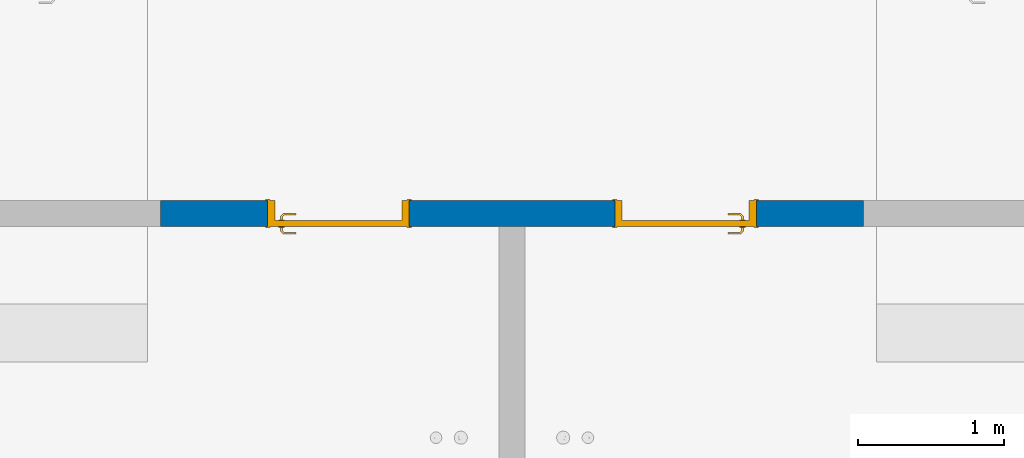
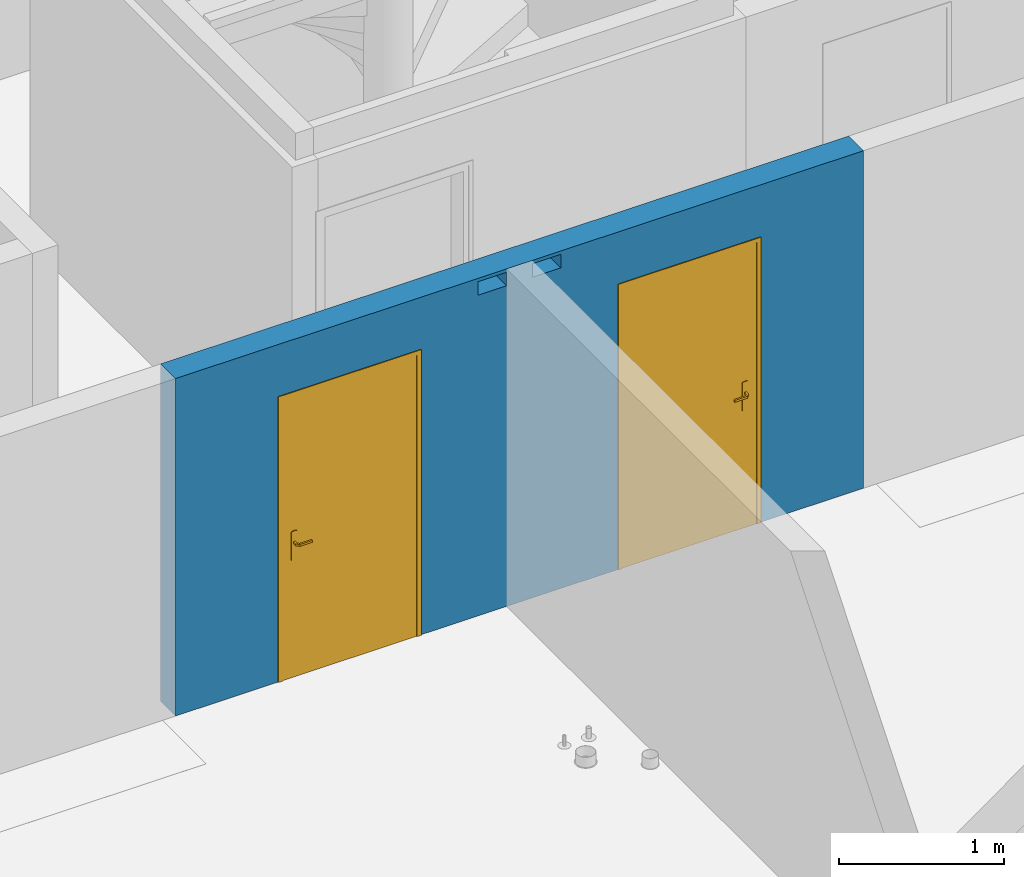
# One storey, part 10 of 34: 2 doors, 1 wall, 4 openings.
"""IFC2X3 building model written with IfcOpenShell, lengths in centimetres."""

from ifc_helpers import new_model, entity, si_unit, converted_unit, derived_unit, direction, frame, frame_2d, origin, place, context, subcontext, project, spatial, rectangle, extrude, faceted_brep, source, transform, mapped, material, material_list, layer, layer_set, layer_usage, type_object, type_shapes, element, fill, save


model = new_model("IFC2X3")

# Units and contexts
model_context = context("Model", 3, precision=0.001, world=origin(), true_north=direction((6.12303176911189e-17, 1.0)))
body_context = subcontext(model_context, "Body", "Model", "MODEL_VIEW")
ifc_project = project(units=[si_unit("LENGTHUNIT", "METRE", prefix="CENTI"), si_unit("AREAUNIT", "SQUARE_METRE"), si_unit("VOLUMEUNIT", "CUBIC_METRE"), converted_unit("PLANEANGLEUNIT", "DEGREE", entity("IfcRatioMeasure", 0.0174532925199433), si_unit("PLANEANGLEUNIT", "RADIAN"), dimensions=[0, 0, 0, 0, 0, 0, 0]), si_unit("MASSUNIT", "GRAM", prefix="KILO"), derived_unit("MASSDENSITYUNIT", [(si_unit("MASSUNIT", "GRAM", prefix="KILO"), 1), (si_unit("LENGTHUNIT", "METRE"), -3)]), si_unit("TIMEUNIT", "SECOND"), si_unit("FREQUENCYUNIT", "HERTZ"), si_unit("THERMODYNAMICTEMPERATUREUNIT", "DEGREE_CELSIUS"), derived_unit("THERMALTRANSMITTANCEUNIT", [(si_unit("MASSUNIT", "GRAM", prefix="KILO"), 1), (si_unit("THERMODYNAMICTEMPERATUREUNIT", "KELVIN"), -1), (si_unit("TIMEUNIT", "SECOND"), -3)]), derived_unit("VOLUMETRICFLOWRATEUNIT", [(si_unit("LENGTHUNIT", "METRE"), 3), (si_unit("TIMEUNIT", "SECOND"), -1)]), si_unit("ELECTRICCURRENTUNIT", "AMPERE"), si_unit("ELECTRICVOLTAGEUNIT", "VOLT"), si_unit("POWERUNIT", "WATT"), si_unit("FORCEUNIT", "NEWTON"), si_unit("ILLUMINANCEUNIT", "LUX"), si_unit("LUMINOUSFLUXUNIT", "LUMEN"), si_unit("LUMINOUSINTENSITYUNIT", "CANDELA"), derived_unit("USERDEFINED", [(si_unit("MASSUNIT", "GRAM", prefix="KILO"), -1), (si_unit("LENGTHUNIT", "METRE"), -2), (si_unit("TIMEUNIT", "SECOND"), 3), (si_unit("LUMINOUSFLUXUNIT", "LUMEN"), 1)]), derived_unit("LINEARVELOCITYUNIT", [(si_unit("LENGTHUNIT", "METRE"), 1), (si_unit("TIMEUNIT", "SECOND"), -1)]), si_unit("PRESSUREUNIT", "PASCAL"), derived_unit("USERDEFINED", [(si_unit("LENGTHUNIT", "METRE"), -2), (si_unit("MASSUNIT", "GRAM", prefix="KILO"), 1), (si_unit("TIMEUNIT", "SECOND"), -2)])], contexts=[model_context])

# Site, building, storey
site_placement = place(None, origin())
site = spatial("IfcSite", under=ifc_project, at=site_placement, Name="Default", CompositionType="ELEMENT")
building_placement = place(site_placement, origin())
building = spatial("IfcBuilding", under=site, at=building_placement, Name="CAGE 03", CompositionType="ELEMENT")
storey_placement = place(building_placement, frame((0.0, 0.0, 340.0)))
storey = spatial("IfcBuildingStorey", under=building, at=storey_placement, Name="R+1", CompositionType="ELEMENT", Elevation=340.0)

# Wall, openings, doors
ifc_material_1 = material(Name="Béton, C25/30")
ifc_layer = layer(ifc_material_1, 18.0)
ifc_layer_set = layer_set([ifc_layer], Name="Mur de base:Voile BA 18")
ifc_layer_usage = layer_usage(ifc_layer_set, "AXIS2", "NEGATIVE", 9.0)
wall_type = type_object("IfcWallType", Name="Mur de base:Voile BA 18", PredefinedType="STANDARD", material=ifc_layer_set)
wall_placement = place(storey_placement, frame((6840.36582014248, 4483.6606660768, 0.0)))
wall = element("IfcWallStandardCase", 1, at=wall_placement, inside=storey, type_object=wall_type, material=ifc_layer_usage, Name="Mur de base:Voile BA 18", ObjectType="Mur de base:Voile BA 18", context=body_context, shape_type="SweptSolid", body=[
    extrude(rectangle(XDim=482.000000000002, YDim=17.9999999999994, at=frame_2d((241.000000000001, 3.5527136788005e-13), x_axis=(-1.0, 0.0))), origin(), (0.0, 0.0, 1.0), 250.0),
])
opening_1_placement = place(wall_placement, origin())
element("IfcOpeningElement", 2, at=opening_1_placement, cuts=wall, Name="Mur de base:Voile BA 18", ObjectType="Opening", context=body_context, shape_type="SweptSolid", body=[
    extrude(rectangle(XDim=10.0, YDim=19.9999999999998, at=frame_2d((4.33431068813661e-13, 5.41788836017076e-14), x_axis=(0.0, 1.0))), frame((222.0, -9.0, 242.5), z_axis=(0.0, 1.0, 0.0), x_axis=(1.0, 0.0, 0.0)), (0.0, 0.0, 1.0), 17.9999999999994),
])
opening_2_placement = place(wall_placement, origin())
element("IfcOpeningElement", 3, at=opening_2_placement, cuts=wall, Name="Mur de base:Voile BA 18", ObjectType="Opening", context=body_context, shape_type="SweptSolid", body=[
    extrude(rectangle(XDim=10.0, YDim=19.9999999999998, at=frame_2d((4.33431068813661e-13, 5.41788836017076e-14), x_axis=(0.0, 1.0))), frame((260.0, -9.0, 242.5), z_axis=(0.0, 1.0, 0.0), x_axis=(1.0, 0.0, 0.0)), (0.0, 0.0, 1.0), 17.9999999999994),
])
opening_3_placement = place(wall_placement, frame((170.499999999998, 9.0, 0.0)))
opening_3 = element("IfcOpeningElement", 4, at=opening_3_placement, cuts=wall, Name="Int. Simple:HB93:1", ObjectType="Opening", context=body_context, shape_type="SweptSolid", body=[
    extrude(rectangle(XDim=210.000000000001, YDim=96.9999999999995, at=frame_2d((105.000000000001, 48.4999999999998), x_axis=(1.0, 0.0))), frame((0.0, 0.0, 0.0), z_axis=(0.0, -1.0, 0.0), x_axis=(0.0, 0.0, 1.0)), (0.0, 0.0, 1.0), 18.0),
])
opening_4_placement = place(wall_placement, frame((408.500000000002, 9.0, 0.0)))
opening_4 = element("IfcOpeningElement", 5, at=opening_4_placement, cuts=wall, Name="Int. Simple:HB93:1", ObjectType="Opening", context=body_context, shape_type="SweptSolid", body=[
    extrude(rectangle(XDim=210.000000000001, YDim=96.9999999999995, at=frame_2d((105.000000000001, 48.4999999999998), x_axis=(1.0, 0.0))), frame((0.0, 0.0, 0.0), z_axis=(0.0, -1.0, 0.0), x_axis=(0.0, 0.0, 1.0)), (0.0, 0.0, 1.0), 18.0),
])
ifc_material_2 = material(Name="Finition Peinture - Blanc satiné")
ifc_material_3 = material(Name="Bois - Panneau de porte")
ifc_material_4 = material(Name="Bois - Cadre de porte")
ifc_material_list_1 = material_list([ifc_material_2, ifc_material_3, ifc_material_4])
ifc_material_list_2 = material_list([ifc_material_2, ifc_material_3, ifc_material_4])
door_style_1 = type_object("IfcDoorStyle", Name="HB93", ConstructionType="NOTDEFINED", OperationType="SINGLE_SWING_RIGHT", ParameterTakesPrecedence=False, Sizeable=False, material=ifc_material_list_2)
shared_shape_1 = source(origin(), body_context, "Body", "Brep", [
    faceted_brep([(96.5000000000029, -0.500000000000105, 87.0), (96.5000000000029, -0.500000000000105, 108.0), (95.535276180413, -0.500000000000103, 108.399601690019), (94.5000000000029, -0.500000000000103, 108.535898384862), (93.4647238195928, -0.500000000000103, 108.399601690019), (92.5000000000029, -0.500000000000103, 108.0), (92.5000000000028, -0.500000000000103, 87.0), (93.4647238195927, -0.500000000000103, 86.6003983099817), (94.5000000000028, -0.500000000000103, 86.464101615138), (95.5352761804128, -0.500000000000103, 86.6003983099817), (96.5000000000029, 0.0, 108.0), (96.5000000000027, 0.0, 87.0), (95.5352761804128, 0.0, 86.6003983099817), (94.5000000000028, 0.0, 86.464101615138), (93.4647238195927, 0.0, 86.6003983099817), (92.5000000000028, 0.0, 87.0), (92.5000000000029, 0.0, 108.0), (93.4647238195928, 0.0, 108.399601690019), (94.5000000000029, 0.0, 108.535898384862), (95.535276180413, 0.0, 108.399601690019)], [[[0, 1, 2, 3, 4, 5, 6, 7, 8, 9]], [[10, 11, 12, 13, 14, 15, 16, 17, 18, 19]], [[9, 12, 11, 0]], [[8, 13, 12, 9]], [[7, 14, 13, 8]], [[7, 6, 15, 14]], [[15, 6, 5, 16]], [[4, 17, 16, 5]], [[3, 18, 17, 4]], [[2, 19, 18, 3]], [[2, 1, 10, 19]], [[11, 10, 1, 0]]]),
    faceted_brep([(96.5000000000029, 4.0, 87.0), (96.5000000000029, 4.0, 108.0), (95.535276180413, 4.0, 108.399601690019), (94.5000000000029, 4.0, 108.535898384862), (93.4647238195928, 4.0, 108.399601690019), (92.500000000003, 4.0, 108.0), (92.5000000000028, 4.0, 87.0), (93.4647238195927, 4.0, 86.6003983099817), (94.5000000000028, 4.0, 86.464101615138), (95.5352761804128, 4.0, 86.6003983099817), (94.5000000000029, 4.49999999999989, 108.535898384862), (95.535276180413, 4.49999999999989, 108.399601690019), (96.5000000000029, 4.49999999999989, 108.0), (96.5000000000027, 4.49999999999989, 87.0), (95.5352761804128, 4.49999999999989, 86.6003983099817), (94.5000000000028, 4.49999999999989, 86.464101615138), (93.4647238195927, 4.49999999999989, 86.6003983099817), (92.5000000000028, 4.4999999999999, 87.0), (92.5000000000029, 4.4999999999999, 108.0), (93.4647238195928, 4.49999999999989, 108.399601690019)], [[[0, 1, 2, 3, 4, 5, 6, 7, 8, 9]], [[10, 11, 12, 13, 14, 15, 16, 17, 18, 19]], [[4, 19, 18, 5]], [[3, 10, 19, 4]], [[2, 11, 10, 3]], [[2, 1, 12, 11]], [[13, 12, 1, 0]], [[9, 14, 13, 0]], [[8, 15, 14, 9]], [[7, 16, 15, 8]], [[7, 6, 17, 16]], [[17, 6, 5, 18]]]),
    faceted_brep([(94.2974701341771, -0.500000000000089, 100.778044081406), (94.7025298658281, -0.500000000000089, 100.778044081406), (95.100000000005, -0.500000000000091, 100.699999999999), (95.100000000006, -0.500000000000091, 99.2999999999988), (94.7025298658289, -0.500000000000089, 99.221955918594), (94.297470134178, -0.500000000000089, 99.2219559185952), (93.9000000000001, -0.500000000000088, 99.3000000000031), (93.9000000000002, -0.500000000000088, 100.7), (94.7025298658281, -3.10045754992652, 100.778044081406), (95.1000000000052, -3.26509507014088, 100.7), (94.2974701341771, -2.93267631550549, 100.778044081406), (92.9298602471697, -4.30028620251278, 100.778044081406), (93.0976414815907, -4.70534593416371, 100.778044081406), (93.9000000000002, -2.76803879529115, 100.7), (93.9000000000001, -2.76803879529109, 99.3000000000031), (94.297470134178, -2.93267631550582, 99.2219559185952), (94.7025298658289, -3.10045754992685, 99.221955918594), (93.0976414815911, -4.70534593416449, 99.221955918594), (92.9298602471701, -4.30028620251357, 99.2219559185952), (95.100000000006, -3.26509507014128, 99.2999999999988), (93.2622790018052, -5.1028160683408, 100.7), (92.7652227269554, -3.90281606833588, 100.7), (92.7652227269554, -3.90281606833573, 99.3000000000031), (93.2622790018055, -5.10281606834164, 99.2999999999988), (84.4981359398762, -5.10281606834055, 100.7), (84.4981359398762, -4.70534593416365, 100.778044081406), (84.4981359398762, -4.30028620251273, 100.778044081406), (84.4981359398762, -3.90281606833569, 100.699999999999), (84.4981359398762, -3.90281606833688, 99.3000000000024), (84.4981359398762, -4.30028620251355, 99.2219559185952), (84.4981359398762, -4.70534593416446, 99.221955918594), (84.4981359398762, -5.10281606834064, 99.2999999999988), (88.7139980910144, -4.5028160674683, 100.78786867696), (89.2692302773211, -5.1028160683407, 100.7), (88.6316793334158, -3.90281606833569, 100.7), (88.631679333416, -3.90281606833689, 99.3000000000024), (88.7139981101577, -4.50281607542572, 99.2121313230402), (89.2692310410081, -5.10281606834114, 99.2999999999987)], [[[0, 1, 2, 3, 4, 5, 6, 7]], [[2, 1, 8, 9]], [[1, 0, 10, 11, 12, 8]], [[0, 7, 13, 10]], [[14, 13, 7, 6]], [[5, 15, 14, 6]], [[5, 4, 16, 17, 18, 15]], [[3, 19, 16, 4]], [[9, 19, 3, 2]], [[9, 8, 12, 20]], [[10, 13, 21, 11]], [[22, 21, 13, 14]], [[14, 15, 18, 22]], [[16, 19, 23, 17]], [[20, 23, 19, 9]], [[24, 25, 26, 27, 28, 29, 30, 31]], [[32, 25, 33]], [[33, 25, 24]], [[33, 20, 12]], [[11, 34, 32]], [[34, 11, 21]], [[27, 26, 34]], [[32, 26, 25]], [[32, 34, 26]], [[32, 33, 12]], [[11, 32, 12]], [[21, 22, 35, 28, 27, 34]], [[36, 29, 35]], [[30, 36, 37]], [[18, 35, 22]], [[29, 28, 35]], [[30, 37, 31]], [[37, 17, 23]], [[36, 17, 37]], [[36, 18, 17]], [[36, 35, 18]], [[29, 36, 30]], [[23, 20, 33, 24, 31, 37]]]),
    faceted_brep([(94.2974701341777, 4.49999999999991, 99.2219559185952), (94.7025298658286, 4.49999999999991, 99.221955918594), (95.1000000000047, 4.49999999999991, 99.2999999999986), (95.1000000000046, 4.49999999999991, 100.7), (94.7025298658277, 4.49999999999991, 100.778044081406), (94.2974701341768, 4.49999999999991, 100.778044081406), (93.8999999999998, 4.49999999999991, 100.7), (93.900000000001, 4.49999999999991, 99.3000000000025), (93.8999999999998, 6.7485204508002, 100.7), (93.8999999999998, 6.74852045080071, 99.3000000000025), (94.2974701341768, 6.91315797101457, 100.778044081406), (94.7025298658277, 7.0809392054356, 100.778044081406), (93.0838906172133, 8.69957845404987, 100.778044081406), (92.9161093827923, 8.29451872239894, 100.778044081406), (95.1000000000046, 7.24557672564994, 100.7), (95.1000000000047, 7.24557672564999, 99.2999999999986), (94.7025298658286, 7.08093920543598, 99.221955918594), (94.2974701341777, 6.91315797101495, 99.2219559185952), (92.9161093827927, 8.29451872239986, 99.2219559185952), (93.0838906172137, 8.69957845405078, 99.221955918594), (92.751471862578, 7.89704858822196, 100.7), (92.7514718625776, 7.89704858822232, 99.3000000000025), (93.2485281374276, 9.09704858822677, 100.7), (93.2485281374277, 9.09704858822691, 99.2999999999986), (84.4954216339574, 8.29451872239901, 100.778044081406), (84.4954216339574, 8.69957845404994, 100.778044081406), (84.4954216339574, 9.09704858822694, 100.7), (84.4954216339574, 9.09704858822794, 99.2999999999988), (84.4954216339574, 8.6995784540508, 99.221955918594), (84.4954216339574, 8.29451872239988, 99.2219559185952), (84.4954216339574, 7.89704858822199, 99.3000000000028), (84.4954216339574, 7.89704858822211, 100.7), (88.6234467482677, 7.89704858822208, 100.7), (88.6234479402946, 7.89704858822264, 99.3000000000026), (88.7057655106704, 8.49704858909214, 100.78786867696), (89.255479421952, 9.09704858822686, 100.7), (89.2554795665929, 9.09704858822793, 99.2999999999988), (88.7057654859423, 8.49704858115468, 99.2121313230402)], [[[0, 1, 2, 3, 4, 5, 6, 7]], [[8, 9, 7, 6]], [[5, 10, 8, 6]], [[5, 4, 11, 12, 13, 10]], [[3, 14, 11, 4]], [[14, 3, 2, 15]], [[2, 1, 16, 15]], [[1, 0, 17, 18, 19, 16]], [[0, 7, 9, 17]], [[20, 21, 9, 8]], [[8, 10, 13, 20]], [[14, 22, 12, 11]], [[23, 22, 14, 15]], [[15, 16, 19, 23]], [[17, 9, 21, 18]], [[24, 25, 26, 27, 28, 29, 30, 31]], [[21, 20, 32, 31, 30, 33]], [[34, 24, 32]], [[25, 34, 35]], [[13, 32, 20]], [[24, 31, 32]], [[25, 35, 26]], [[35, 12, 22]], [[34, 12, 35]], [[34, 13, 12]], [[34, 32, 13]], [[24, 34, 25]], [[22, 23, 36, 27, 26, 35]], [[37, 28, 36]], [[36, 28, 27]], [[36, 23, 19]], [[18, 33, 37]], [[33, 18, 21]], [[30, 29, 33]], [[37, 29, 28]], [[37, 33, 29]], [[37, 36, 19]], [[18, 37, 19]]]),
    faceted_brep([(100.500000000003, 4.0, 206.5), (100.500000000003, 4.0, 0.0), (10.5000000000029, 4.0, 0.0), (10.5000000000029, 4.0, 206.5), (100.500000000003, 0.0, 206.5), (10.5000000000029, 0.0, 206.5), (10.5000000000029, 0.0, 0.0), (100.500000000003, 0.0, 0.0)], [[[0, 1, 2, 3]], [[4, 5, 6, 7]], [[3, 5, 4, 0]], [[2, 6, 5, 3]], [[1, 7, 6, 2]], [[0, 4, 7, 1]]]),
    faceted_brep([(104.0, 0.0, 0.0), (100.500000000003, 0.0, 0.0), (100.500000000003, 4.0, 0.0), (99.0, 4.0, 0.0), (99.0, 18.0, 0.0), (104.0, 18.0, 0.0), (104.0, 18.0, 210.0), (104.0, 0.0, 210.0), (99.0, 18.0, 205.0), (12.0, 18.0, 205.0), (12.0, 18.0, 0.0), (7.0, 18.0, 0.0), (7.0, 18.0, 210.0), (99.0, 4.0, 205.0), (100.500000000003, 4.0, 206.5), (10.5000000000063, 4.0, 206.5), (10.5000000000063, 4.0, 0.0), (12.0, 4.0, 0.0), (12.0, 4.0, 205.0), (100.500000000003, 0.0, 206.5), (7.0, 0.0, 210.0), (7.0, 0.0, 0.0), (10.5000000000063, 0.0, 0.0), (10.5000000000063, 0.0, 206.5)], [[[0, 1, 2, 3, 4, 5]], [[5, 6, 7, 0]], [[4, 8, 9, 10, 11, 12, 6, 5]], [[3, 13, 8, 4]], [[2, 14, 15, 16, 17, 18, 13, 3]], [[1, 19, 14, 2]], [[0, 7, 20, 21, 22, 23, 19, 1]], [[12, 11, 21, 20]], [[21, 11, 10, 17, 16, 22]], [[18, 17, 10, 9]], [[23, 22, 16, 15]], [[6, 12, 20, 7]], [[13, 18, 9, 8]], [[19, 23, 15, 14]]]),
    faceted_brep([(102.500000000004, 18.0, 0.0), (102.500000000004, 18.5000000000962, 0.0), (105.500000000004, 18.5000000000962, 0.0), (105.500000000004, 18.0, 0.0), (105.500000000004, 18.0, 211.500000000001), (5.50000000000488, 18.0, 211.500000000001), (5.50000000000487, 18.0, 0.0), (8.50000000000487, 18.0, 0.0), (8.50000000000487, 18.0, 208.500000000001), (102.500000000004, 18.0, 208.500000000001), (105.500000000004, 18.5000000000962, 211.500000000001), (102.500000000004, 18.5000000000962, 208.500000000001), (8.50000000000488, 18.5000000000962, 208.500000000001), (8.50000000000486, 18.5000000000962, 0.0), (5.50000000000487, 18.5000000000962, 0.0), (5.50000000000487, 18.5000000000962, 211.500000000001)], [[[0, 1, 2, 3]], [[3, 4, 5, 6, 7, 8, 9, 0]], [[2, 10, 4, 3]], [[1, 11, 12, 13, 14, 15, 10, 2]], [[0, 9, 11, 1]], [[7, 6, 14, 13]], [[8, 7, 13, 12]], [[15, 14, 6, 5]], [[10, 15, 5, 4]], [[9, 8, 12, 11]]]),
    faceted_brep([(105.500000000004, -0.5, 0.0), (105.500000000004, -0.5, 211.500000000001), (5.50000000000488, -0.5, 211.500000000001), (5.50000000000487, -0.5, 0.0), (8.50000000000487, -0.5, 0.0), (8.50000000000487, -0.5, 208.500000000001), (102.500000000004, -0.5, 208.500000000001), (102.500000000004, -0.5, 0.0), (105.500000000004, 0.0, 0.0), (105.500000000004, 0.0, 211.500000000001), (102.500000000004, 0.0, 0.0), (102.500000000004, 0.0, 208.500000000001), (8.50000000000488, 0.0, 208.500000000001), (8.50000000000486, 0.0, 0.0), (5.50000000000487, 0.0, 0.0), (5.50000000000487, 0.0, 211.500000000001)], [[[0, 1, 2, 3, 4, 5, 6, 7]], [[8, 9, 1, 0]], [[10, 11, 12, 13, 14, 15, 9, 8]], [[7, 6, 11, 10]], [[5, 4, 13, 12]], [[15, 14, 3, 2]], [[9, 15, 2, 1]], [[6, 5, 12, 11]], [[4, 3, 14, 13]], [[7, 10, 8, 0]]]),
])
type_shapes(door_style_1, [shared_shape_1])
door_1_placement = place(opening_4_placement, frame((-104.0, -18.0, 0.0)))
door_1 = element("IfcDoor", 6, at=door_1_placement, inside=storey, type_object=door_style_1, material=ifc_material_list_1, Name="Int. Simple:HB93", ObjectType="HB93", OverallHeight=210.000000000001, OverallWidth=96.9999999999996, context=body_context, shape_type="MappedRepresentation", body=[
    mapped(shared_shape_1, transform((0.0, 0.0, 0.0), scale=1.0)),
])
fill(opening_4, door_1)
ifc_material_list_3 = material_list([ifc_material_2, ifc_material_3, ifc_material_4])
ifc_material_list_4 = material_list([ifc_material_2, ifc_material_3, ifc_material_4])
door_style_2 = type_object("IfcDoorStyle", Name="HB93", ConstructionType="NOTDEFINED", OperationType="SINGLE_SWING_LEFT", ParameterTakesPrecedence=False, Sizeable=False, material=ifc_material_list_4)
shared_shape_2 = source(origin(), body_context, "Body", "Brep", [
    faceted_brep([(10.5352761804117, -0.500000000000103, 86.6003983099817), (11.5000000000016, -0.500000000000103, 87.0), (11.5000000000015, -0.500000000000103, 108.0), (10.5352761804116, -0.500000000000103, 108.399601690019), (9.50000000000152, -0.500000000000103, 108.535898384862), (8.46472381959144, -0.500000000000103, 108.399601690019), (7.50000000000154, -0.500000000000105, 108.0), (7.50000000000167, -0.500000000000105, 87.0), (8.46472381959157, -0.500000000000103, 86.6003983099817), (9.50000000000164, -0.500000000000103, 86.464101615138), (10.5352761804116, 0.0, 108.399601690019), (11.5000000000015, 0.0, 108.0), (11.5000000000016, 0.0, 87.0), (10.5352761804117, 0.0, 86.6003983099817), (9.50000000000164, 0.0, 86.464101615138), (8.46472381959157, 0.0, 86.6003983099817), (7.50000000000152, 0.0, 87.0), (7.50000000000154, 0.0, 108.0), (8.46472381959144, 0.0, 108.399601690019), (9.50000000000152, 0.0, 108.535898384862)], [[[0, 1, 2, 3, 4, 5, 6, 7, 8, 9]], [[10, 11, 12, 13, 14, 15, 16, 17, 18, 19]], [[16, 15, 8, 7]], [[8, 15, 14, 9]], [[14, 13, 0, 9]], [[13, 12, 1, 0]], [[2, 1, 12, 11]], [[11, 10, 3, 2]], [[3, 10, 19, 4]], [[19, 18, 5, 4]], [[18, 17, 6, 5]], [[7, 6, 17, 16]]]),
    faceted_brep([(10.5352761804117, 4.0, 86.6003983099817), (11.5000000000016, 4.0, 87.0), (11.5000000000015, 4.0, 108.0), (10.5352761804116, 4.0, 108.399601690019), (9.50000000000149, 4.0, 108.535898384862), (8.46472381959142, 4.0, 108.399601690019), (7.50000000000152, 4.0, 108.0), (7.50000000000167, 4.0, 87.0), (8.46472381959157, 4.0, 86.6003983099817), (9.50000000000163, 4.0, 86.464101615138), (10.5352761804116, 4.49999999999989, 108.399601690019), (11.5000000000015, 4.4999999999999, 108.0), (11.5000000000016, 4.4999999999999, 87.0), (10.5352761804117, 4.49999999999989, 86.6003983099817), (9.50000000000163, 4.49999999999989, 86.464101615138), (8.46472381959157, 4.49999999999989, 86.6003983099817), (7.50000000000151, 4.49999999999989, 87.0), (7.50000000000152, 4.49999999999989, 108.0), (8.46472381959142, 4.49999999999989, 108.399601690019), (9.50000000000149, 4.49999999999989, 108.535898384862)], [[[0, 1, 2, 3, 4, 5, 6, 7, 8, 9]], [[10, 11, 12, 13, 14, 15, 16, 17, 18, 19]], [[11, 10, 3, 2]], [[3, 10, 19, 4]], [[19, 18, 5, 4]], [[18, 17, 6, 5]], [[7, 6, 17, 16]], [[16, 15, 8, 7]], [[8, 15, 14, 9]], [[14, 13, 0, 9]], [[13, 12, 1, 0]], [[2, 1, 12, 11]]]),
    faceted_brep([(9.29747013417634, -0.500000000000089, 100.778044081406), (9.70252986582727, -0.500000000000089, 100.778044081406), (10.1000000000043, -0.500000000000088, 100.699999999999), (10.1000000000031, -0.500000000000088, 99.3000000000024), (9.70252986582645, -0.500000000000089, 99.2219559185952), (9.29747013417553, -0.500000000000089, 99.221955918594), (8.89999999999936, -0.500000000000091, 99.2999999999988), (8.89999999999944, -0.500000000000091, 100.7), (8.89999999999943, -3.26509507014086, 100.7), (9.29747013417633, -3.10045754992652, 100.778044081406), (10.9023585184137, -4.70534593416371, 100.778044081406), (11.0701397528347, -4.30028620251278, 100.778044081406), (9.70252986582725, -2.93267631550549, 100.778044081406), (10.1000000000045, -2.76803879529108, 100.7), (10.1000000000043, -2.76803879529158, 99.3000000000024), (9.70252986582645, -2.93267631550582, 99.2219559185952), (11.0701397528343, -4.30028620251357, 99.2219559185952), (10.9023585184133, -4.70534593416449, 99.221955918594), (9.29747013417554, -3.10045754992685, 99.221955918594), (8.89999999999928, -3.26509507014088, 99.2999999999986), (10.7377209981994, -5.1028160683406, 100.7), (11.2347772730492, -3.90281606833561, 100.7), (11.2347772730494, -3.90281606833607, 99.3000000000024), (10.7377209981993, -5.10281606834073, 99.2999999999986), (19.5018640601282, -5.1028160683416, 99.2999999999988), (19.5018640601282, -4.70534593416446, 99.221955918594), (19.5018640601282, -4.30028620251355, 99.2219559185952), (19.5018640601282, -3.90281606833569, 99.3000000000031), (19.5018640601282, -3.90281606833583, 100.7), (19.5018640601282, -4.30028620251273, 100.778044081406), (19.5018640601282, -4.70534593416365, 100.778044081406), (19.5018640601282, -5.10281606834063, 100.699999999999), (14.7307697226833, -5.10281606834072, 100.7), (15.28600190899, -4.5028160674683, 100.78786867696), (15.3683206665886, -3.9028160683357, 100.7), (15.3683206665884, -3.90281606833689, 99.3000000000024), (15.2860018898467, -4.50281607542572, 99.2121313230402), (14.7307700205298, -5.10281606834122, 99.2999999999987)], [[[0, 1, 2, 3, 4, 5, 6, 7]], [[8, 9, 0, 7]], [[9, 10, 11, 12, 1, 0]], [[12, 13, 2, 1]], [[3, 2, 13, 14]], [[14, 15, 4, 3]], [[15, 16, 17, 18, 5, 4]], [[18, 19, 6, 5]], [[7, 6, 19, 8]], [[20, 10, 9, 8]], [[11, 21, 13, 12]], [[14, 13, 21, 22]], [[22, 16, 15, 14]], [[17, 23, 19, 18]], [[8, 19, 23, 20]], [[24, 25, 26, 27, 28, 29, 30, 31]], [[32, 30, 33]], [[31, 30, 32]], [[10, 20, 32]], [[33, 34, 11]], [[21, 11, 34]], [[34, 29, 28]], [[30, 29, 33]], [[29, 34, 33]], [[10, 32, 33]], [[10, 33, 11]], [[22, 21, 34, 28, 27, 35]], [[35, 26, 36]], [[37, 36, 25]], [[22, 35, 16]], [[35, 27, 26]], [[24, 37, 25]], [[23, 17, 37]], [[37, 17, 36]], [[17, 16, 36]], [[16, 35, 36]], [[25, 36, 26]], [[20, 23, 37, 24, 31, 32]]]),
    faceted_brep([(9.29747013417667, 4.49999999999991, 100.778044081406), (8.89999999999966, 4.49999999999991, 100.7), (8.89999999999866, 4.49999999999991, 99.2999999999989), (9.2974701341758, 4.49999999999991, 99.221955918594), (9.70252986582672, 4.49999999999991, 99.2219559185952), (10.1000000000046, 4.49999999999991, 99.3000000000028), (10.1000000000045, 4.49999999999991, 100.7), (9.70252986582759, 4.49999999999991, 100.778044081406), (10.1000000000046, 6.7485204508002, 99.3000000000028), (10.1000000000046, 6.74852045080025, 100.7), (9.70252986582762, 6.91315797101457, 100.778044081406), (11.0838906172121, 8.29451872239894, 100.778044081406), (10.9161093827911, 8.69957845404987, 100.778044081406), (9.29747013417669, 7.0809392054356, 100.778044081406), (8.89999999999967, 7.24557672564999, 100.7), (8.89999999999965, 7.24557672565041, 99.2999999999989), (9.29747013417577, 7.08093920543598, 99.221955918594), (10.9161093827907, 8.69957845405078, 99.221955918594), (11.0838906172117, 8.29451872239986, 99.2219559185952), (9.7025298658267, 6.91315797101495, 99.2219559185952), (11.2485281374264, 7.89704858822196, 99.3000000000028), (11.2485281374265, 7.89704858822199, 100.7), (10.7514718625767, 9.0970485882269, 100.7), (10.751471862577, 9.0970485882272, 99.2999999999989), (19.504578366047, 7.89704858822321, 99.3000000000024), (19.504578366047, 8.29451872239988, 99.2219559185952), (19.504578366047, 8.6995784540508, 99.221955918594), (19.504578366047, 9.09704858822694, 99.2999999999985), (19.504578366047, 9.09704858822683, 100.7), (19.504578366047, 8.69957845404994, 100.778044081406), (19.504578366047, 8.29451872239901, 100.778044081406), (19.504578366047, 7.89704858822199, 100.7), (15.3765520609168, 7.89704858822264, 99.3000000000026), (15.3765532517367, 7.89704858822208, 100.7), (15.294234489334, 8.49704858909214, 100.78786867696), (14.7445205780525, 9.09704858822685, 100.7), (14.7445204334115, 9.09704858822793, 99.2999999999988), (15.2942345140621, 8.49704858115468, 99.2121313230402)], [[[0, 1, 2, 3, 4, 5, 6, 7]], [[6, 5, 8, 9]], [[9, 10, 7, 6]], [[10, 11, 12, 13, 0, 7]], [[13, 14, 1, 0]], [[2, 1, 14, 15]], [[15, 16, 3, 2]], [[16, 17, 18, 19, 4, 3]], [[19, 8, 5, 4]], [[9, 8, 20, 21]], [[21, 11, 10, 9]], [[12, 22, 14, 13]], [[15, 14, 22, 23]], [[23, 17, 16, 15]], [[18, 20, 8, 19]], [[24, 25, 26, 27, 28, 29, 30, 31]], [[21, 20, 32, 24, 31, 33]], [[33, 30, 34]], [[35, 34, 29]], [[21, 33, 11]], [[33, 31, 30]], [[28, 35, 29]], [[22, 12, 35]], [[35, 12, 34]], [[12, 11, 34]], [[11, 33, 34]], [[29, 34, 30]], [[22, 35, 28, 27, 36, 23]], [[36, 26, 37]], [[27, 26, 36]], [[17, 23, 36]], [[37, 32, 18]], [[20, 18, 32]], [[32, 25, 24]], [[26, 25, 37]], [[25, 32, 37]], [[17, 36, 37]], [[17, 37, 18]]]),
    faceted_brep([(3.50000000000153, 4.0, 206.5), (93.5000000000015, 4.0, 206.5), (93.5000000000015, 4.0, 0.0), (3.50000000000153, 4.0, 0.0), (3.50000000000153, 0.0, 206.5), (3.50000000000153, 0.0, 0.0), (93.5000000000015, 0.0, 0.0), (93.5000000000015, 0.0, 206.5)], [[[0, 1, 2, 3]], [[4, 5, 6, 7]], [[1, 0, 4, 7]], [[2, 1, 7, 6]], [[3, 2, 6, 5]], [[0, 3, 5, 4]]]),
    faceted_brep([(0.0, 0.0, 0.0), (0.0, 18.0, 0.0), (5.0, 18.0, 0.0), (5.0, 4.0, 0.0), (3.50000000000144, 4.0, 0.0), (3.50000000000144, 0.0, 0.0), (0.0, 0.0, 210.0), (0.0, 18.0, 210.0), (97.0, 18.0, 210.0), (97.0, 18.0, 0.0), (92.0, 18.0, 0.0), (92.0, 18.0, 205.0), (5.0, 18.0, 205.0), (5.0, 4.0, 205.0), (92.0, 4.0, 205.0), (92.0, 4.0, 0.0), (93.4999999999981, 4.0, 0.0), (93.4999999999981, 4.0, 206.5), (3.50000000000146, 4.0, 206.5), (3.50000000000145, 0.0, 206.5), (93.4999999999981, 0.0, 206.5), (93.4999999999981, 0.0, 0.0), (97.0, 0.0, 0.0), (97.0, 0.0, 210.0)], [[[0, 1, 2, 3, 4, 5]], [[1, 0, 6, 7]], [[2, 1, 7, 8, 9, 10, 11, 12]], [[3, 2, 12, 13]], [[4, 3, 13, 14, 15, 16, 17, 18]], [[5, 4, 18, 19]], [[0, 5, 19, 20, 21, 22, 23, 6]], [[8, 23, 22, 9]], [[22, 21, 16, 15, 10, 9]], [[14, 11, 10, 15]], [[20, 17, 16, 21]], [[7, 6, 23, 8]], [[13, 12, 11, 14]], [[19, 18, 17, 20]]]),
    faceted_brep([(1.5, 18.0, 0.0), (-1.49999999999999, 18.0, 0.0), (-1.49999999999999, 18.5000000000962, 0.0), (1.5, 18.5000000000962, 0.0), (1.5, 18.0, 208.500000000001), (95.4999999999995, 18.0, 208.500000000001), (95.4999999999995, 18.0, 0.0), (98.4999999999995, 18.0, 0.0), (98.4999999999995, 18.0, 211.500000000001), (-1.49999999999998, 18.0, 211.500000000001), (-1.49999999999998, 18.5000000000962, 211.500000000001), (98.4999999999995, 18.5000000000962, 211.500000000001), (98.4999999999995, 18.5000000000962, 0.0), (95.4999999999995, 18.5000000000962, 0.0), (95.4999999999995, 18.5000000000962, 208.500000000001), (1.50000000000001, 18.5000000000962, 208.500000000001)], [[[0, 1, 2, 3]], [[1, 0, 4, 5, 6, 7, 8, 9]], [[2, 1, 9, 10]], [[3, 2, 10, 11, 12, 13, 14, 15]], [[0, 3, 15, 4]], [[6, 13, 12, 7]], [[5, 14, 13, 6]], [[11, 8, 7, 12]], [[10, 9, 8, 11]], [[4, 15, 14, 5]]]),
    faceted_brep([(-1.49999999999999, -0.5, 0.0), (1.5, -0.5, 0.0), (1.5, -0.5, 208.500000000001), (95.4999999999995, -0.5, 208.500000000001), (95.4999999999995, -0.5, 0.0), (98.4999999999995, -0.5, 0.0), (98.4999999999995, -0.5, 211.500000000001), (-1.49999999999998, -0.5, 211.500000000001), (-1.49999999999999, 0.0, 0.0), (-1.49999999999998, 0.0, 211.500000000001), (1.5, 0.0, 0.0), (98.4999999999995, 0.0, 211.500000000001), (98.4999999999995, 0.0, 0.0), (95.4999999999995, 0.0, 0.0), (95.4999999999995, 0.0, 208.500000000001), (1.50000000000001, 0.0, 208.500000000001)], [[[0, 1, 2, 3, 4, 5, 6, 7]], [[8, 0, 7, 9]], [[10, 8, 9, 11, 12, 13, 14, 15]], [[1, 10, 15, 2]], [[3, 14, 13, 4]], [[11, 6, 5, 12]], [[9, 7, 6, 11]], [[2, 15, 14, 3]], [[4, 13, 12, 5]], [[1, 0, 8, 10]]]),
])
type_shapes(door_style_2, [shared_shape_2])
door_2_placement = place(opening_3_placement, frame((-97.0, -18.0, 0.0)))
door_2 = element("IfcDoor", 7, at=door_2_placement, inside=storey, type_object=door_style_2, material=ifc_material_list_3, Name="Int. Simple:HB93", ObjectType="HB93", OverallHeight=210.000000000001, OverallWidth=96.9999999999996, context=body_context, shape_type="MappedRepresentation", body=[
    mapped(shared_shape_2, transform((0.0, 0.0, 0.0), scale=1.0)),
])
fill(opening_3, door_2)

save(model, "model.ifc")
